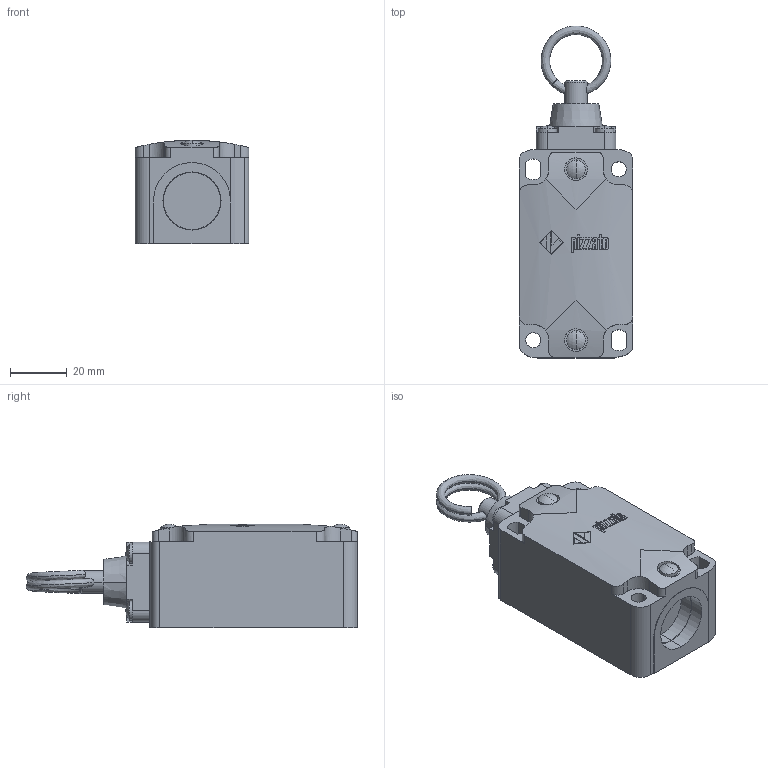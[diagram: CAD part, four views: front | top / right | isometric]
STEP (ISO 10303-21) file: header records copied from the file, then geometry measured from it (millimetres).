
FILE_DESCRIPTION (( 'STEP AP214' ), '1' );
FILE_NAME ('ZF_STEP_FD_x76_A10.step', '2014-04-10T09:01:46', ( 'utente' ), ( 'Microsoft' ), 'SwSTEP 2.0', 'SolidWorks 2013', '' );
FILE_SCHEMA (( 'AUTOMOTIVE_DESIGN' ));
Length unit declared in the file: millimetre
Products named in the file (5): ZF_STEP_VF_T76_A10; Pizzato_T76; Pizzato_Supporto_T76; Pizzato_Custodia_FD; ZF_STEP_FD_x76_A10
Assembly tree (4 placements, depth 3):
  ZF_STEP_FD_x76_A10
    Pizzato_Custodia_FD
    ZF_STEP_VF_T76_A10
      Pizzato_Supporto_T76
      Pizzato_T76
Bounding box: 40 x 116.53 x 36.3 mm (x, y, z)
Volume: 102577.3 mm3; surface area: 22313.1 mm2
Topology: 3 solids, 3 shells, 429 faces, 1134 edges, 755 vertices
Faces by surface type: plane 234, bspline 101, cylinder 78, sphere 12, cone 4
Entity records: 19389 total; most frequent: CARTESIAN_POINT 9178, ORIENTED_EDGE 2268, DIRECTION 1744, EDGE_CURVE 1134, VERTEX_POINT 755, LINE 664, VECTOR 664, AXIS2_PLACEMENT_3D 540
